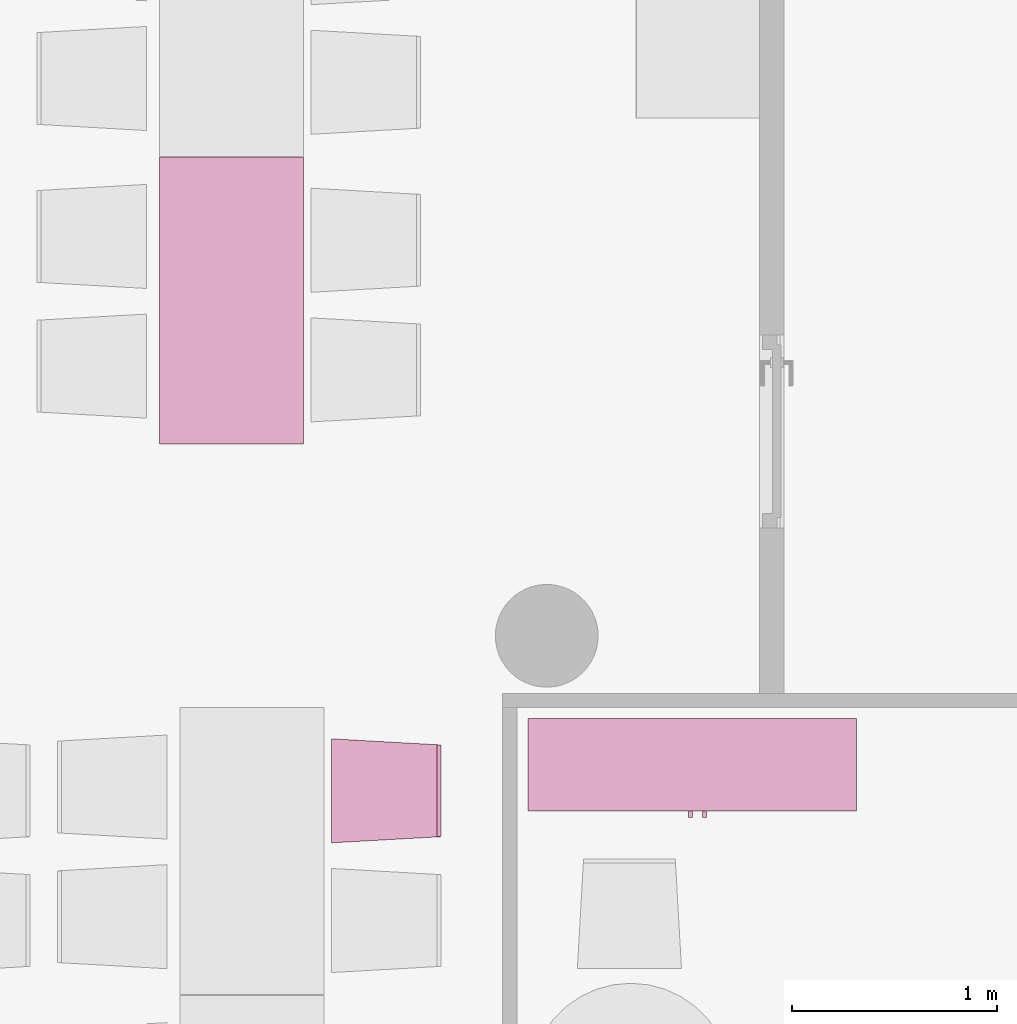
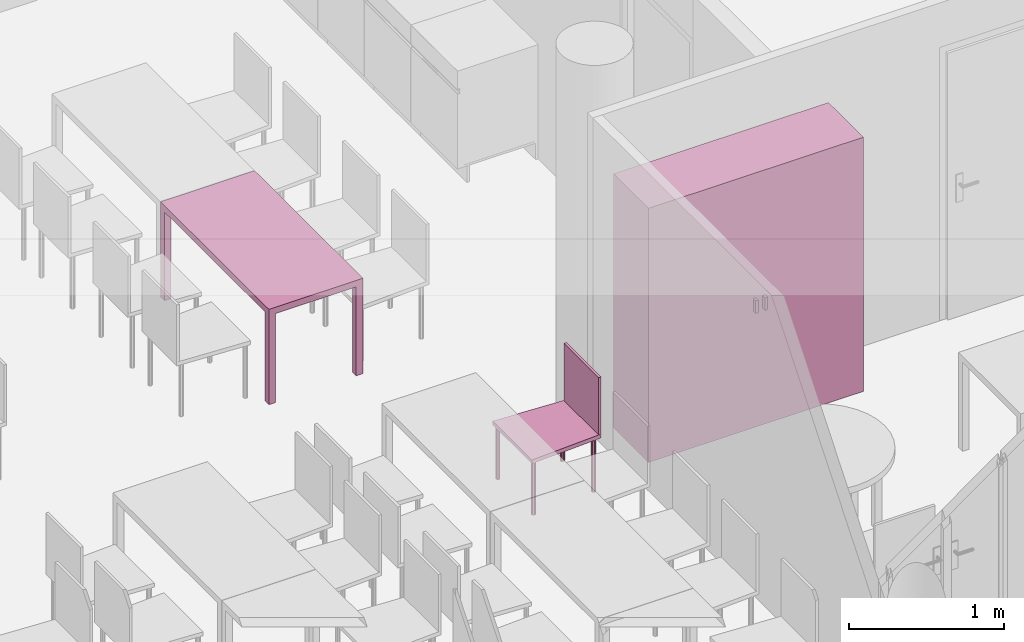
"""IFC4 building model written with IfcOpenShell, lengths in metres."""

from ifc_helpers import new_model, entity, si_unit, converted_unit, derived_unit, frame, origin, place, context, subcontext, project, spatial, faceted_brep, element, save


model = new_model("IFC4")

# Units and contexts
model_context = context("Model", 3, precision=1e-05, world=origin())
body_context = subcontext(model_context, "Body", "Model", "MODEL_VIEW")
ifc_project = project(units=[si_unit("LENGTHUNIT", "METRE"), si_unit("AREAUNIT", "SQUARE_METRE"), si_unit("VOLUMEUNIT", "CUBIC_METRE"), si_unit("MASSUNIT", "GRAM", prefix="KILO"), converted_unit("PLANEANGLEUNIT", "DEGREE", entity("IfcPlaneAngleMeasure", 0.0174532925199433), si_unit("PLANEANGLEUNIT", "RADIAN"), dimensions=[0, 0, 0, 0, 0, 0, 0]), derived_unit("THERMALTRANSMITTANCEUNIT", [(si_unit("POWERUNIT", "WATT"), 1), (si_unit("THERMODYNAMICTEMPERATUREUNIT", "KELVIN"), -1), (si_unit("LENGTHUNIT", "METRE"), -2)]), derived_unit("VOLUMETRICFLOWRATEUNIT", [(si_unit("LENGTHUNIT", "METRE"), 3), (converted_unit("TIMEUNIT", "hour", entity("IfcTimeMeasure", 3600.0), si_unit("TIMEUNIT", "SECOND"), dimensions=[0, 0, 1, 0, 0, 0, 0]), -1), (si_unit("LENGTHUNIT", "METRE"), -1)])], contexts=[model_context])

# Building, storeys
building_placement = place(None, origin())
building = spatial("IfcBuilding", under=ifc_project, at=building_placement, Name="HABITATGE PLURIFAMILIAR", CompositionType="ELEMENT")
storey_1_placement = place(building_placement, frame((0.0, 0.0, 3.35)))
storey_1 = spatial("IfcBuildingStorey", under=building, at=storey_1_placement, Name="PLANTA  ALTELL", CompositionType="ELEMENT", Elevation=3.35)
storey_2_placement = place(storey_1_placement, origin())
storey_2 = spatial("IfcBuildingStorey", under=storey_1, at=storey_2_placement, Name="NOU", CompositionType="PARTIAL")

# Furniture
furniture_1_placement = place(storey_2_placement, frame((403.951918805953, 18.7326455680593, 0.05)))
element("IfcFurniture", 1, at=furniture_1_placement, inside=storey_2, Name="Taula 140X80_PA", context=body_context, shape_type="Brep", body=[
    faceted_brep([(0.7, 0.0500000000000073, 0.0), (0.65, 0.0500000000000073, 0.0), (0.65, 0.0, 0.0), (0.7, 0.0, 0.0), (0.65, 0.0500000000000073, 0.7), (0.7, 0.0500000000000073, 0.7), (0.7, 0.0, 0.7), (0.65, 0.0, 0.7)], [[[0, 1, 2, 3]], [[4, 5, 6, 7]], [[1, 0, 5, 4]], [[2, 1, 4, 7]], [[3, 2, 7, 6]], [[0, 3, 6, 5]]], orient=[[False], [False], [False], [False], [False], [False]]),
    faceted_brep([(0.7, 1.39694592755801, 0.0), (0.65, 1.39694592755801, 0.0), (0.65, 1.34694592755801, 0.0), (0.7, 1.34694592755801, 0.0), (0.65, 1.39694592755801, 0.7), (0.7, 1.39694592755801, 0.7), (0.7, 1.34694592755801, 0.7), (0.65, 1.34694592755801, 0.7)], [[[0, 1, 2, 3]], [[4, 5, 6, 7]], [[1, 0, 5, 4]], [[2, 1, 4, 7]], [[3, 2, 7, 6]], [[0, 3, 6, 5]]], orient=[[False], [False], [False], [False], [False], [False]]),
    faceted_brep([(0.7, 1.396945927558, 0.7), (0.0, 1.396945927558, 0.7), (0.0, 0.0, 0.7), (0.7, 0.0, 0.7), (0.0, 1.396945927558, 0.75), (0.7, 1.396945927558, 0.75), (0.7, 0.0, 0.75), (0.0, 0.0, 0.75)], [[[0, 1, 2, 3]], [[4, 5, 6, 7]], [[1, 0, 5, 4]], [[2, 1, 4, 7]], [[3, 2, 7, 6]], [[0, 3, 6, 5]]], orient=[[False], [False], [False], [False], [False], [False]]),
    faceted_brep([(0.05, 0.05, 0.0), (0.0, 0.05, 0.0), (0.0, 0.0, 0.0), (0.05, 0.0, 0.0), (0.0, 0.05, 0.7), (0.05, 0.05, 0.7), (0.05, 0.0, 0.7), (0.0, 0.0, 0.7)], [[[0, 1, 2, 3]], [[4, 5, 6, 7]], [[1, 0, 5, 4]], [[2, 1, 4, 7]], [[3, 2, 7, 6]], [[0, 3, 6, 5]]], orient=[[False], [False], [False], [False], [False], [False]]),
    faceted_brep([(0.05, 1.396945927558, 0.0), (0.0, 1.396945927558, 0.0), (0.0, 1.346945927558, 0.0), (0.05, 1.346945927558, 0.0), (0.0, 1.396945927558, 0.7), (0.05, 1.396945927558, 0.7), (0.05, 1.346945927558, 0.7), (0.0, 1.346945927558, 0.7)], [[[0, 1, 2, 3]], [[4, 5, 6, 7]], [[1, 0, 5, 4]], [[2, 1, 4, 7]], [[3, 2, 7, 6]], [[0, 3, 6, 5]]], orient=[[False], [False], [False], [False], [False], [False]]),
])
furniture_2_placement = place(storey_2_placement, frame((405.745875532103, 16.916291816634, 0.05)))
element("IfcFurniture", 2, at=furniture_2_placement, inside=storey_2, Name="Armai 160x45_PA", context=body_context, shape_type="Brep", body=[
    faceted_brep([(0.78, 0.03, 1.01806481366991), (0.78, 0.0, 1.01806481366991), (0.78, 0.0, 0.918064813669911), (0.78, 0.03, 0.918064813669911), (0.8, 0.0, 0.918064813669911), (0.8, 0.03, 0.918064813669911), (0.8, 0.0, 1.01806481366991), (0.8, 0.03, 1.01806481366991)], [[[0, 1, 2, 3]], [[3, 2, 4, 5]], [[5, 4, 6, 7]], [[7, 6, 1, 0]], [[0, 3, 5, 7]], [[1, 6, 4, 2]]], orient=[[False], [False], [False], [False], [False], [False]]),
    faceted_brep([(1.6, 0.0300000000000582, 0.02), (1.6, 0.0300000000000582, 0.0), (0.0, 0.0300000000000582, 0.0), (0.0, 0.0300000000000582, 0.02), (0.0, 0.480000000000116, 0.0), (0.0, 0.480000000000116, 0.02), (1.6, 0.480000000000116, 0.0), (1.6, 0.480000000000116, 0.02)], [[[0, 1, 2, 3]], [[3, 2, 4, 5]], [[5, 4, 6, 7]], [[7, 6, 1, 0]], [[0, 3, 5, 7]], [[1, 6, 4, 2]]], orient=[[False], [False], [False], [False], [False], [False]]),
    faceted_brep([(0.85, 0.0300000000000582, 1.01806481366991), (0.85, 0.0, 1.01806481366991), (0.85, 0.0, 0.918064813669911), (0.85, 0.0300000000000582, 0.918064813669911), (0.87, 0.0, 0.918064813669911), (0.87, 0.0300000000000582, 0.918064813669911), (0.87, 0.0, 1.01806481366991), (0.87, 0.0300000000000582, 1.01806481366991)], [[[0, 1, 2, 3]], [[3, 2, 4, 5]], [[5, 4, 6, 7]], [[7, 6, 1, 0]], [[0, 3, 5, 7]], [[1, 6, 4, 2]]], orient=[[False], [False], [False], [False], [False], [False]]),
    faceted_brep([(1.6, 0.03, 2.0), (1.6, 0.03, 1.98), (0.0, 0.03, 1.98), (0.0, 0.03, 2.0), (0.0, 0.480000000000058, 1.98), (0.0, 0.480000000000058, 2.0), (1.6, 0.480000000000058, 1.98), (1.6, 0.480000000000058, 2.0)], [[[0, 1, 2, 3]], [[3, 2, 4, 5]], [[5, 4, 6, 7]], [[7, 6, 1, 0]], [[0, 3, 5, 7]], [[1, 6, 4, 2]]], orient=[[False], [False], [False], [False], [False], [False]]),
    faceted_brep([(1.58, 0.0300000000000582, 1.98), (1.6, 0.0300000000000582, 1.98), (1.6, 0.0300000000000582, 0.02), (1.58, 0.0300000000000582, 0.02), (1.6, 0.480000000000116, 0.02), (1.58, 0.480000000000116, 0.02), (1.6, 0.480000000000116, 1.98), (1.58, 0.480000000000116, 1.98)], [[[0, 1, 2, 3]], [[3, 2, 4, 5]], [[5, 4, 6, 7]], [[7, 6, 1, 0]], [[0, 3, 5, 7]], [[1, 6, 4, 2]]], orient=[[False], [False], [False], [False], [False], [False]]),
    faceted_brep([(0.02, 0.480000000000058, 1.98), (0.02, 0.460000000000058, 1.98), (0.02, 0.460000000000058, 0.02), (0.02, 0.480000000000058, 0.02), (1.58, 0.460000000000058, 0.02), (1.58, 0.480000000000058, 0.02), (1.58, 0.460000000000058, 1.98), (1.58, 0.480000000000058, 1.98)], [[[0, 1, 2, 3]], [[3, 2, 4, 5]], [[5, 4, 6, 7]], [[7, 6, 1, 0]], [[0, 3, 5, 7]], [[1, 6, 4, 2]]], orient=[[False], [False], [False], [False], [False], [False]]),
    faceted_brep([(0.02, 0.05, 1.98), (0.02, 0.03, 1.98), (0.02, 0.03, 0.02), (0.02, 0.05, 0.02), (0.8, 0.0300000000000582, 0.02), (0.8, 0.0500000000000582, 0.02), (0.8, 0.0300000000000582, 1.98), (0.8, 0.0500000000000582, 1.98)], [[[0, 1, 2, 3]], [[3, 2, 4, 5]], [[5, 4, 6, 7]], [[7, 6, 1, 0]], [[0, 3, 5, 7]], [[1, 6, 4, 2]]], orient=[[False], [False], [False], [False], [False], [False]]),
    faceted_brep([(0.0, 0.0300000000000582, 1.98), (0.02, 0.0300000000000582, 1.98), (0.02, 0.0300000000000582, 0.02), (0.0, 0.0300000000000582, 0.02), (0.02, 0.480000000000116, 0.02), (0.0, 0.480000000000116, 0.02), (0.02, 0.480000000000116, 1.98), (0.0, 0.480000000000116, 1.98)], [[[0, 1, 2, 3]], [[3, 2, 4, 5]], [[5, 4, 6, 7]], [[7, 6, 1, 0]], [[0, 3, 5, 7]], [[1, 6, 4, 2]]], orient=[[False], [False], [False], [False], [False], [False]]),
    faceted_brep([(0.8, 0.0500000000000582, 1.98), (0.8, 0.0300000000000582, 1.98), (0.8, 0.0300000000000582, 0.02), (0.8, 0.0500000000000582, 0.02), (1.58, 0.0300000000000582, 0.02), (1.58, 0.0500000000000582, 0.02), (1.58, 0.0300000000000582, 1.98), (1.58, 0.0500000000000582, 1.98)], [[[0, 1, 2, 3]], [[3, 2, 4, 5]], [[5, 4, 6, 7]], [[7, 6, 1, 0]], [[0, 3, 5, 7]], [[1, 6, 4, 2]]], orient=[[False], [False], [False], [False], [False], [False]]),
])
furniture_3_placement = place(storey_2_placement, frame((404.789669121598, 16.7918682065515, 0.0499839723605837)))
element("IfcFurniture", 3, at=furniture_3_placement, inside=storey_2, Name="Cadira confident_PA", context=body_context, shape_type="Brep", body=[
    faceted_brep([(0.0250324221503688, 0.0391636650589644, 0.0), (0.0224394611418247, 0.0389254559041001, 0.0), (0.0199272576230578, 0.038240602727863, 0.0), (0.0175721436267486, 0.0371299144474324, 0.0), (0.0154456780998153, 0.0356271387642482, 0.0), (0.0136124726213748, 0.0337779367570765, 0.0), (0.0121282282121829, 0.0316384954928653, 0.0), (0.0110380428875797, 0.0292738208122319, 0.0), (0.010375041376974, 0.0267557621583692, 0.0), (0.0101593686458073, 0.0241608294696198, 0.0), (0.010397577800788, 0.0215678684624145, 0.0), (0.0110824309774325, 0.0190556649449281, 0.0), (0.0121931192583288, 0.0167005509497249, 0.0), (0.0136958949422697, 0.0145740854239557, 0.0), (0.0155450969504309, 0.0127408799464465, 0.0), (0.0176845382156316, 0.0112566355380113, 0.0), (0.0200492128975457, 0.010166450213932, 0.0), (0.0225672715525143, 0.00950344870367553, 0.0), (0.0251622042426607, 0.00928777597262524, 0.0), (0.0277551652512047, 0.00952598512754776, 0.0), (0.0302673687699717, 0.0102108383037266, 0.0), (0.0326224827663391, 0.0113215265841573, 0.0), (0.0347489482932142, 0.0128243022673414, 0.0), (0.0365821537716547, 0.0146735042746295, 0.0), (0.0380663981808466, 0.0168129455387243, 0.0), (0.0391565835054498, 0.019177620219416, 0.0), (0.0398195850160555, 0.0216956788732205, 0.0), (0.0400352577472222, 0.0242906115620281, 0.0), (0.0397970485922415, 0.0268835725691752, 0.0), (0.0391121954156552, 0.0293957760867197, 0.0), (0.0380015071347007, 0.0317508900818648, 0.0), (0.0364987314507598, 0.0338773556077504, 0.0), (0.0346495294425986, 0.0357105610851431, 0.0), (0.0325100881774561, 0.0371948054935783, 0.0), (0.030145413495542, 0.0382849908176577, 0.0), (0.0276273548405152, 0.0389479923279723, 0.0), (0.0250324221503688, 0.0391636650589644, 0.448281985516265), (0.0276273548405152, 0.0389479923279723, 0.448281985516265), (0.030145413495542, 0.0382849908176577, 0.448281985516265), (0.0325100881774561, 0.0371948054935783, 0.448281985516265), (0.0346495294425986, 0.0357105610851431, 0.448281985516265), (0.0364987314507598, 0.0338773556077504, 0.448281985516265), (0.0380015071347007, 0.0317508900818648, 0.448281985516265), (0.0391121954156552, 0.0293957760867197, 0.448281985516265), (0.0397970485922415, 0.0268835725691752, 0.448281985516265), (0.0400352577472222, 0.0242906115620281, 0.448281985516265), (0.0398195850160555, 0.0216956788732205, 0.448281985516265), (0.0391565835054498, 0.019177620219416, 0.448281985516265), (0.0380663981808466, 0.0168129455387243, 0.448281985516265), (0.0365821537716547, 0.0146735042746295, 0.448281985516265), (0.0347489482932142, 0.0128243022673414, 0.448281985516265), (0.0326224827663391, 0.0113215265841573, 0.448281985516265), (0.0302673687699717, 0.0102108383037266, 0.448281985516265), (0.0277551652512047, 0.00952598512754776, 0.448281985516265), (0.0251622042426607, 0.00928777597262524, 0.448281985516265), (0.0225672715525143, 0.00950344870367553, 0.448281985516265), (0.0200492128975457, 0.010166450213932, 0.448281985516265), (0.0176845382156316, 0.0112566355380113, 0.448281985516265), (0.0155450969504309, 0.0127408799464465, 0.448281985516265), (0.0136958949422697, 0.0145740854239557, 0.448281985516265), (0.0121931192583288, 0.0167005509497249, 0.448281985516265), (0.0110824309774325, 0.0190556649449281, 0.448281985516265), (0.010397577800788, 0.0215678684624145, 0.448281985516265), (0.0101593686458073, 0.0241608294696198, 0.448281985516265), (0.010375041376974, 0.0267557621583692, 0.448281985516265), (0.0110380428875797, 0.0292738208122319, 0.448281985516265), (0.0121282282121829, 0.0316384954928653, 0.448281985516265), (0.0136124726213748, 0.0337779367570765, 0.448281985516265), (0.0154456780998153, 0.0356271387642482, 0.448281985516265), (0.0175721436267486, 0.0371299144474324, 0.448281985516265), (0.0199272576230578, 0.038240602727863, 0.448281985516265), (0.0224394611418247, 0.0389254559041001, 0.448281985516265)], [[[0, 1, 2, 3, 4, 5, 6, 7, 8, 9, 10, 11, 12, 13, 14, 15, 16, 17, 18, 19, 20, 21, 22, 23, 24, 25, 26, 27, 28, 29, 30, 31, 32, 33, 34, 35]], [[36, 37, 38, 39, 40, 41, 42, 43, 44, 45, 46, 47, 48, 49, 50, 51, 52, 53, 54, 55, 56, 57, 58, 59, 60, 61, 62, 63, 64, 65, 66, 67, 68, 69, 70, 71]], [[35, 37, 36, 0]], [[34, 38, 37, 35]], [[33, 39, 38, 34]], [[32, 40, 39, 33]], [[31, 41, 40, 32]], [[30, 42, 41, 31]], [[29, 43, 42, 30]], [[28, 44, 43, 29]], [[27, 45, 44, 28]], [[26, 46, 45, 27]], [[25, 47, 46, 26]], [[24, 48, 47, 25]], [[23, 49, 48, 24]], [[22, 50, 49, 23]], [[21, 51, 50, 22]], [[20, 52, 51, 21]], [[19, 53, 52, 20]], [[18, 54, 53, 19]], [[17, 55, 54, 18]], [[16, 56, 55, 17]], [[15, 57, 56, 16]], [[14, 58, 57, 15]], [[13, 59, 58, 14]], [[12, 60, 59, 13]], [[11, 61, 60, 12]], [[10, 62, 61, 11]], [[9, 63, 62, 10]], [[8, 64, 63, 9]], [[7, 65, 64, 8]], [[6, 66, 65, 7]], [[5, 67, 66, 6]], [[4, 68, 67, 5]], [[3, 69, 68, 4]], [[2, 70, 69, 3]], [[1, 71, 70, 2]], [[0, 36, 71, 1]]], orient=[[False], [False], [False], [False], [False], [False], [False], [False], [False], [False], [False], [False], [False], [False], [False], [False], [False], [False], [False], [False], [False], [False], [False], [False], [False], [False], [False], [False], [False], [False], [False], [False], [False], [False], [False], [False], [False], [False]]),
    faceted_brep([(0.487439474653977, 0.0668016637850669, 0.0), (0.484846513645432, 0.0665634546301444, 0.0), (0.482334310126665, 0.0658786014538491, 0.0), (0.479979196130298, 0.0647679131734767, 0.0), (0.477852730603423, 0.0632651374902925, 0.0), (0.476019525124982, 0.0614159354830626, 0.0), (0.474535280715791, 0.0592764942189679, 0.0), (0.473445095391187, 0.056911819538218, 0.0), (0.472782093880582, 0.0543937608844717, 0.0), (0.472566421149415, 0.0517988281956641, 0.0), (0.472804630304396, 0.0492058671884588, 0.0), (0.473489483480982, 0.0466936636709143, 0.0), (0.474600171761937, 0.0443385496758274, 0.0), (0.476102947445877, 0.0422120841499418, 0.0), (0.477952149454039, 0.0403788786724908, 0.0), (0.480091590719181, 0.0388946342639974, 0.0), (0.482456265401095, 0.0378044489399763, 0.0), (0.484974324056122, 0.0371414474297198, 0.0), (0.487569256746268, 0.0369257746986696, 0.0), (0.490162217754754, 0.0371639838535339, 0.0), (0.492674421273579, 0.0378488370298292, 0.0), (0.495029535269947, 0.0389595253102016, 0.0), (0.497156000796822, 0.0404623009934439, 0.0), (0.498989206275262, 0.0423115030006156, 0.0), (0.500473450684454, 0.0444509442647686, 0.0), (0.501563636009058, 0.0468156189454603, 0.0), (0.502226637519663, 0.0493336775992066, 0.0), (0.50244231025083, 0.0519286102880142, 0.0), (0.502204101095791, 0.0545215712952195, 0.0), (0.501519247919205, 0.057033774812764, 0.0), (0.500408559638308, 0.0593888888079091, 0.0), (0.498905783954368, 0.0615153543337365, 0.0), (0.497056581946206, 0.0633485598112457, 0.0), (0.494917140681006, 0.0648328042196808, 0.0), (0.492552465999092, 0.065922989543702, 0.0), (0.490034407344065, 0.0665859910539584, 0.0), (0.487439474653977, 0.0668016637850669, 0.448281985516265), (0.490034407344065, 0.0665859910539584, 0.448281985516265), (0.492552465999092, 0.065922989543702, 0.448281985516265), (0.494917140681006, 0.0648328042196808, 0.448281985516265), (0.497056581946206, 0.0633485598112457, 0.448281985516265), (0.498905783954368, 0.0615153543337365, 0.448281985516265), (0.500408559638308, 0.0593888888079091, 0.448281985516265), (0.501519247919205, 0.057033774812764, 0.448281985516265), (0.502204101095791, 0.0545215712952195, 0.448281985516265), (0.50244231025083, 0.0519286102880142, 0.448281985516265), (0.502226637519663, 0.0493336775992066, 0.448281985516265), (0.501563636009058, 0.0468156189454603, 0.448281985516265), (0.500473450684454, 0.0444509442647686, 0.448281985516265), (0.498989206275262, 0.0423115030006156, 0.448281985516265), (0.497156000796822, 0.0404623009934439, 0.448281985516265), (0.495029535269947, 0.0389595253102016, 0.448281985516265), (0.492674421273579, 0.0378488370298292, 0.448281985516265), (0.490162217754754, 0.0371639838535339, 0.448281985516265), (0.487569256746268, 0.0369257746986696, 0.448281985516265), (0.484974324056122, 0.0371414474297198, 0.448281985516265), (0.482456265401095, 0.0378044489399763, 0.448281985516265), (0.480091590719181, 0.0388946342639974, 0.448281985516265), (0.477952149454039, 0.0403788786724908, 0.448281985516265), (0.476102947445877, 0.0422120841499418, 0.448281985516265), (0.474600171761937, 0.0443385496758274, 0.448281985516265), (0.473489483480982, 0.0466936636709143, 0.448281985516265), (0.472804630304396, 0.0492058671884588, 0.448281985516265), (0.472566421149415, 0.0517988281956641, 0.448281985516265), (0.472782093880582, 0.0543937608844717, 0.448281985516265), (0.473445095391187, 0.056911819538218, 0.448281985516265), (0.474535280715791, 0.0592764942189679, 0.448281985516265), (0.476019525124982, 0.0614159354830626, 0.448281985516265), (0.477852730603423, 0.0632651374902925, 0.448281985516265), (0.479979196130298, 0.0647679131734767, 0.448281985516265), (0.482334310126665, 0.0658786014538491, 0.448281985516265), (0.484846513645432, 0.0665634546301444, 0.448281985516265)], [[[0, 1, 2, 3, 4, 5, 6, 7, 8, 9, 10, 11, 12, 13, 14, 15, 16, 17, 18, 19, 20, 21, 22, 23, 24, 25, 26, 27, 28, 29, 30, 31, 32, 33, 34, 35]], [[36, 37, 38, 39, 40, 41, 42, 43, 44, 45, 46, 47, 48, 49, 50, 51, 52, 53, 54, 55, 56, 57, 58, 59, 60, 61, 62, 63, 64, 65, 66, 67, 68, 69, 70, 71]], [[35, 37, 36, 0]], [[34, 38, 37, 35]], [[33, 39, 38, 34]], [[32, 40, 39, 33]], [[31, 41, 40, 32]], [[30, 42, 41, 31]], [[29, 43, 42, 30]], [[28, 44, 43, 29]], [[27, 45, 44, 28]], [[26, 46, 45, 27]], [[25, 47, 46, 26]], [[24, 48, 47, 25]], [[23, 49, 48, 24]], [[22, 50, 49, 23]], [[21, 51, 50, 22]], [[20, 52, 51, 21]], [[19, 53, 52, 20]], [[18, 54, 53, 19]], [[17, 55, 54, 18]], [[16, 56, 55, 17]], [[15, 57, 56, 16]], [[14, 58, 57, 15]], [[13, 59, 58, 14]], [[12, 60, 59, 13]], [[11, 61, 60, 12]], [[10, 62, 61, 11]], [[9, 63, 62, 10]], [[8, 64, 63, 9]], [[7, 65, 64, 8]], [[6, 66, 65, 7]], [[5, 67, 66, 6]], [[4, 68, 67, 5]], [[3, 69, 68, 4]], [[2, 70, 69, 3]], [[1, 71, 70, 2]], [[0, 36, 71, 1]]], orient=[[False], [False], [False], [False], [False], [False], [False], [False], [False], [False], [False], [False], [False], [False], [False], [False], [False], [False], [False], [False], [False], [False], [False], [False], [False], [False], [False], [False], [False], [False], [False], [False], [False], [False], [False], [False], [False], [False]]),
    faceted_brep([(0.0250324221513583, 0.499163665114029, 0.0), (0.0224394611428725, 0.498925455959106, 0.0), (0.0199272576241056, 0.498240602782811, 0.0), (0.0175721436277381, 0.497129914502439, 0.0), (0.0154456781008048, 0.495627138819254, 0.0), (0.0136124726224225, 0.493777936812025, 0.0), (0.0121282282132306, 0.491638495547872, 0.0), (0.0110380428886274, 0.489273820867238, 0.0), (0.0103750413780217, 0.486755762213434, 0.0), (0.0101593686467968, 0.484160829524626, 0.0), (0.0103975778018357, 0.481567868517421, 0.0), (0.0110824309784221, 0.479055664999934, 0.0), (0.0121931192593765, 0.476700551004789, 0.0), (0.0136958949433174, 0.474574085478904, 0.0), (0.0155450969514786, 0.472740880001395, 0.0), (0.0176845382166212, 0.471256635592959, 0.0), (0.0200492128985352, 0.470166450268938, 0.0), (0.022567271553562, 0.469503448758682, 0.0), (0.0251622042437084, 0.469287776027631, 0.0), (0.0277551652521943, 0.469525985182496, 0.0), (0.0302673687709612, 0.470210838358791, 0.0), (0.0326224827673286, 0.471321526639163, 0.0), (0.0347489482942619, 0.472824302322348, 0.0), (0.0365821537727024, 0.474673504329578, 0.0), (0.0380663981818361, 0.476812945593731, 0.0), (0.0391565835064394, 0.479177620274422, 0.0), (0.039819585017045, 0.481695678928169, 0.0), (0.0400352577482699, 0.484290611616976, 0.0), (0.039797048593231, 0.486883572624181, 0.0), (0.0391121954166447, 0.489395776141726, 0.0), (0.0380015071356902, 0.491750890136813, 0.0), (0.0364987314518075, 0.493877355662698, 0.0), (0.0346495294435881, 0.495710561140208, 0.0), (0.0325100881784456, 0.497194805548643, 0.0), (0.0301454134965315, 0.498284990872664, 0.0), (0.0276273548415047, 0.49894799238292, 0.0), (0.0250324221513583, 0.499163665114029, 0.448281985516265), (0.0276273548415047, 0.49894799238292, 0.448281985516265), (0.0301454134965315, 0.498284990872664, 0.448281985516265), (0.0325100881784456, 0.497194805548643, 0.448281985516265), (0.0346495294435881, 0.495710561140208, 0.448281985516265), (0.0364987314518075, 0.493877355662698, 0.448281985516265), (0.0380015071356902, 0.491750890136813, 0.448281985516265), (0.0391121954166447, 0.489395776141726, 0.448281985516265), (0.039797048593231, 0.486883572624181, 0.448281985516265), (0.0400352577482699, 0.484290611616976, 0.448281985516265), (0.039819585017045, 0.481695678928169, 0.448281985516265), (0.0391565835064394, 0.479177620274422, 0.448281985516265), (0.0380663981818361, 0.476812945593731, 0.448281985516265), (0.0365821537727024, 0.474673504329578, 0.448281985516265), (0.0347489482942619, 0.472824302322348, 0.448281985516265), (0.0326224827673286, 0.471321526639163, 0.448281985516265), (0.0302673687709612, 0.470210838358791, 0.448281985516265), (0.0277551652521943, 0.469525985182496, 0.448281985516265), (0.0251622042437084, 0.469287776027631, 0.448281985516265), (0.022567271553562, 0.469503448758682, 0.448281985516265), (0.0200492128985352, 0.470166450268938, 0.448281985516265), (0.0176845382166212, 0.471256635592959, 0.448281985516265), (0.0155450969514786, 0.472740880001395, 0.448281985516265), (0.0136958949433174, 0.474574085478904, 0.448281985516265), (0.0121931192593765, 0.476700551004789, 0.448281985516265), (0.0110824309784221, 0.479055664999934, 0.448281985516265), (0.0103975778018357, 0.481567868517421, 0.448281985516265), (0.0101593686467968, 0.484160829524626, 0.448281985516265), (0.0103750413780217, 0.486755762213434, 0.448281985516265), (0.0110380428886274, 0.489273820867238, 0.448281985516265), (0.0121282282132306, 0.491638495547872, 0.448281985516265), (0.0136124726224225, 0.493777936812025, 0.448281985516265), (0.0154456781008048, 0.495627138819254, 0.448281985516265), (0.0175721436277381, 0.497129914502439, 0.448281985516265), (0.0199272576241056, 0.498240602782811, 0.448281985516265), (0.0224394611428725, 0.498925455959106, 0.448281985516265)], [[[0, 1, 2, 3, 4, 5, 6, 7, 8, 9, 10, 11, 12, 13, 14, 15, 16, 17, 18, 19, 20, 21, 22, 23, 24, 25, 26, 27, 28, 29, 30, 31, 32, 33, 34, 35]], [[36, 37, 38, 39, 40, 41, 42, 43, 44, 45, 46, 47, 48, 49, 50, 51, 52, 53, 54, 55, 56, 57, 58, 59, 60, 61, 62, 63, 64, 65, 66, 67, 68, 69, 70, 71]], [[35, 37, 36, 0]], [[34, 38, 37, 35]], [[33, 39, 38, 34]], [[32, 40, 39, 33]], [[31, 41, 40, 32]], [[30, 42, 41, 31]], [[29, 43, 42, 30]], [[28, 44, 43, 29]], [[27, 45, 44, 28]], [[26, 46, 45, 27]], [[25, 47, 46, 26]], [[24, 48, 47, 25]], [[23, 49, 48, 24]], [[22, 50, 49, 23]], [[21, 51, 50, 22]], [[20, 52, 51, 21]], [[19, 53, 52, 20]], [[18, 54, 53, 19]], [[17, 55, 54, 18]], [[16, 56, 55, 17]], [[15, 57, 56, 16]], [[14, 58, 57, 15]], [[13, 59, 58, 14]], [[12, 60, 59, 13]], [[11, 61, 60, 12]], [[10, 62, 61, 11]], [[9, 63, 62, 10]], [[8, 64, 63, 9]], [[7, 65, 64, 8]], [[6, 66, 65, 7]], [[5, 67, 66, 6]], [[4, 68, 67, 5]], [[3, 69, 68, 4]], [[2, 70, 69, 3]], [[1, 71, 70, 2]], [[0, 36, 71, 1]]], orient=[[False], [False], [False], [False], [False], [False], [False], [False], [False], [False], [False], [False], [False], [False], [False], [False], [False], [False], [False], [False], [False], [False], [False], [False], [False], [False], [False], [False], [False], [False], [False], [False], [False], [False], [False], [False], [False], [False]]),
    faceted_brep([(0.48743947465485, 0.466801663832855, 0.0), (0.484846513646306, 0.466563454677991, 0.0), (0.482334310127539, 0.465878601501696, 0.0), (0.479979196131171, 0.464767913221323, 0.0), (0.477852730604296, 0.463265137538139, 0.0), (0.476019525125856, 0.461415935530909, 0.0), (0.474535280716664, 0.459276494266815, 0.0), (0.47344509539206, 0.456911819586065, 0.0), (0.472782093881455, 0.454393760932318, 0.0), (0.472566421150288, 0.451798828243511, 0.0), (0.472804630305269, 0.449205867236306, 0.0), (0.473489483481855, 0.446693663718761, 0.0), (0.47460017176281, 0.444338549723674, 0.0), (0.47610294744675, 0.442212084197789, 0.0), (0.477952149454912, 0.440378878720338, 0.0), (0.480091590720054, 0.438894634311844, 0.0), (0.482456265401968, 0.437804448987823, 0.0), (0.484974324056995, 0.437141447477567, 0.0), (0.487569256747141, 0.436925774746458, 0.0), (0.490162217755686, 0.437163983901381, 0.0), (0.492674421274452, 0.437848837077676, 0.0), (0.495029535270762, 0.438959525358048, 0.0), (0.497156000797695, 0.440462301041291, 0.0), (0.498989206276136, 0.442311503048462, 0.0), (0.500473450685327, 0.444450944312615, 0.0), (0.501563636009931, 0.446815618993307, 0.0), (0.502226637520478, 0.449333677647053, 0.0), (0.502442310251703, 0.451928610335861, 0.0), (0.502204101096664, 0.454521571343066, 0.0), (0.501519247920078, 0.457033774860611, 0.0), (0.500408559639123, 0.459388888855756, 0.0), (0.498905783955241, 0.461515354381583, 0.0), (0.497056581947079, 0.463348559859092, 0.0), (0.494917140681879, 0.464832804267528, 0.0), (0.492552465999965, 0.465922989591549, 0.0), (0.490034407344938, 0.466585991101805, 0.0), (0.48743947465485, 0.466801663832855, 0.448281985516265), (0.490034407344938, 0.466585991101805, 0.448281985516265), (0.492552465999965, 0.465922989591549, 0.448281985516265), (0.494917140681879, 0.464832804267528, 0.448281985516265), (0.497056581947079, 0.463348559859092, 0.448281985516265), (0.498905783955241, 0.461515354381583, 0.448281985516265), (0.500408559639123, 0.459388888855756, 0.448281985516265), (0.501519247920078, 0.457033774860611, 0.448281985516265), (0.502204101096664, 0.454521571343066, 0.448281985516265), (0.502442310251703, 0.451928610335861, 0.448281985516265), (0.502226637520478, 0.449333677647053, 0.448281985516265), (0.501563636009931, 0.446815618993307, 0.448281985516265), (0.500473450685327, 0.444450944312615, 0.448281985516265), (0.498989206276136, 0.442311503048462, 0.448281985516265), (0.497156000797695, 0.440462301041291, 0.448281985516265), (0.495029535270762, 0.438959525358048, 0.448281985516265), (0.492674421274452, 0.437848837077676, 0.448281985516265), (0.490162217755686, 0.437163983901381, 0.448281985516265), (0.487569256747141, 0.436925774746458, 0.448281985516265), (0.484974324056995, 0.437141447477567, 0.448281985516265), (0.482456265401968, 0.437804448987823, 0.448281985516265), (0.480091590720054, 0.438894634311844, 0.448281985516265), (0.477952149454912, 0.440378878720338, 0.448281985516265), (0.47610294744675, 0.442212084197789, 0.448281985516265), (0.47460017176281, 0.444338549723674, 0.448281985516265), (0.473489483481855, 0.446693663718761, 0.448281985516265), (0.472804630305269, 0.449205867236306, 0.448281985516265), (0.472566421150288, 0.451798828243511, 0.448281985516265), (0.472782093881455, 0.454393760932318, 0.448281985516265), (0.47344509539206, 0.456911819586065, 0.448281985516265), (0.474535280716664, 0.459276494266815, 0.448281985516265), (0.476019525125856, 0.461415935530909, 0.448281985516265), (0.477852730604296, 0.463265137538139, 0.448281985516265), (0.479979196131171, 0.464767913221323, 0.448281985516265), (0.482334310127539, 0.465878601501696, 0.448281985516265), (0.484846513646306, 0.466563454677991, 0.448281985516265)], [[[0, 1, 2, 3, 4, 5, 6, 7, 8, 9, 10, 11, 12, 13, 14, 15, 16, 17, 18, 19, 20, 21, 22, 23, 24, 25, 26, 27, 28, 29, 30, 31, 32, 33, 34, 35]], [[36, 37, 38, 39, 40, 41, 42, 43, 44, 45, 46, 47, 48, 49, 50, 51, 52, 53, 54, 55, 56, 57, 58, 59, 60, 61, 62, 63, 64, 65, 66, 67, 68, 69, 70, 71]], [[35, 37, 36, 0]], [[34, 38, 37, 35]], [[33, 39, 38, 34]], [[32, 40, 39, 33]], [[31, 41, 40, 32]], [[30, 42, 41, 31]], [[29, 43, 42, 30]], [[28, 44, 43, 29]], [[27, 45, 44, 28]], [[26, 46, 45, 27]], [[25, 47, 46, 26]], [[24, 48, 47, 25]], [[23, 49, 48, 24]], [[22, 50, 49, 23]], [[21, 51, 50, 22]], [[20, 52, 51, 21]], [[19, 53, 52, 20]], [[18, 54, 53, 19]], [[17, 55, 54, 18]], [[16, 56, 55, 17]], [[15, 57, 56, 16]], [[14, 58, 57, 15]], [[13, 59, 58, 14]], [[12, 60, 59, 13]], [[11, 61, 60, 12]], [[10, 62, 61, 11]], [[9, 63, 62, 10]], [[8, 64, 63, 9]], [[7, 65, 64, 8]], [[6, 66, 65, 7]], [[5, 67, 66, 6]], [[4, 68, 67, 5]], [[3, 69, 68, 4]], [[2, 70, 69, 3]], [[1, 71, 70, 2]], [[0, 36, 71, 1]]], orient=[[False], [False], [False], [False], [False], [False], [False], [False], [False], [False], [False], [False], [False], [False], [False], [False], [False], [False], [False], [False], [False], [False], [False], [False], [False], [False], [False], [False], [False], [False], [False], [False], [False], [False], [False], [False], [False], [False]]),
    faceted_brep([(0.532607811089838, 0.476514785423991, 0.418281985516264), (0.0, 0.506514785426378, 0.418281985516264), (0.0, 0.0, 0.418281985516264), (0.532607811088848, 0.0300000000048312, 0.418281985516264), (0.0, 0.506514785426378, 0.448281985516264), (0.532607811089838, 0.476514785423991, 0.448281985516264), (0.532607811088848, 0.0300000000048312, 0.448281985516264), (0.0, 0.0, 0.448281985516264)], [[[0, 1, 2, 3]], [[4, 5, 6, 7]], [[1, 0, 5, 4]], [[2, 1, 4, 7]], [[3, 2, 7, 6]], [[0, 3, 6, 5]]], orient=[[False], [False], [False], [False], [False], [False]]),
    faceted_brep([(0.512607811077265, 0.476514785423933, 0.448281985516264), (0.512607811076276, 0.0300000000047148, 0.448281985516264), (0.53260781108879, 0.0300000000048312, 0.448281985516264), (0.53260781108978, 0.476514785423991, 0.448281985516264), (0.512607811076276, 0.0300000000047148, 0.898281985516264), (0.512607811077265, 0.476514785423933, 0.898281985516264), (0.53260781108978, 0.476514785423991, 0.898281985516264), (0.53260781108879, 0.0300000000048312, 0.898281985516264)], [[[0, 1, 2, 3]], [[4, 5, 6, 7]], [[1, 0, 5, 4]], [[2, 1, 4, 7]], [[3, 2, 7, 6]], [[0, 3, 6, 5]]], orient=[[False], [False], [False], [False], [False], [False]]),
])

save(model, "model.ifc")
